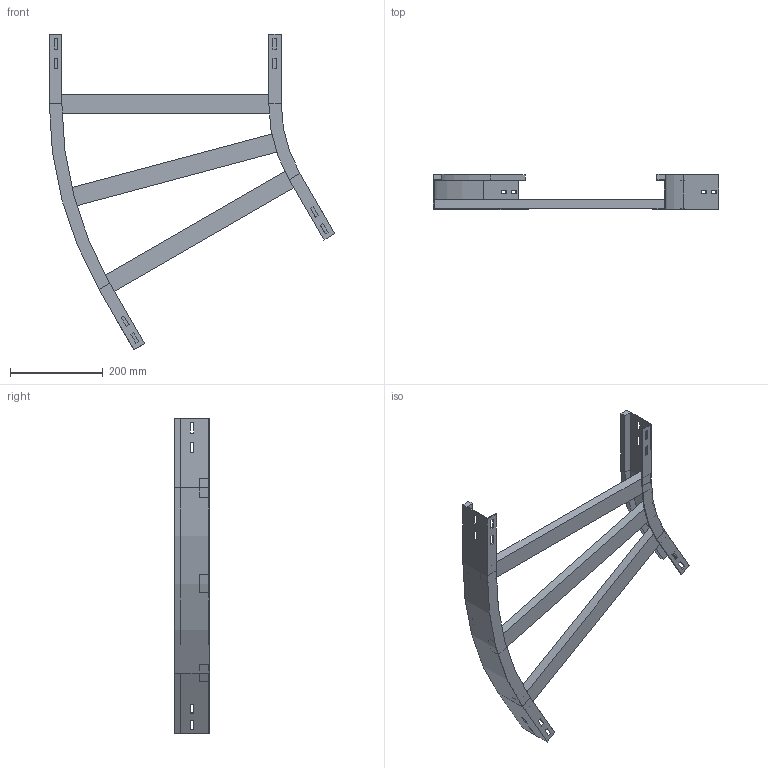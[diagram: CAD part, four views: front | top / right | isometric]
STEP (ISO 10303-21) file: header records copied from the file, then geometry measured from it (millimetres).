
FILE_DESCRIPTION (( 'STEP AP214' ), '1' );
FILE_NAME ('A2_12B3C500.step', '2025-02-21T15:10:44', ( '' ), ( '' ), 'SwSTEP 2.0', 'SolidWorks 2023', '' );
FILE_SCHEMA (( 'AUTOMOTIVE_DESIGN' ));
Length unit declared in the file: millimetre
Products named in the file (4): A2_12B3C500; A2_LONGH.INTERNO 30°_H75_R300; TRAVERSINO_500; A2_LONGH.ESTERNO 30°_H75_R300+500
Assembly tree (5 placements, depth 2):
  A2_12B3C500
    A2_LONGH.INTERNO 30°_H75_R300
    A2_LONGH.ESTERNO 30°_H75_R300+500
    TRAVERSINO_500  x3
Bounding box: 615.19 x 75 x 679.9 mm (x, y, z)
Volume: 1661327.8 mm3; surface area: 460930.2 mm2
Topology: 5 solids, 5 shells, 134 faces, 340 edges, 216 vertices
Faces by surface type: plane 126, cylinder 8
Entity records: 3821 total; most frequent: CARTESIAN_POINT 646, ORIENTED_EDGE 632, DIRECTION 592, EDGE_CURVE 316, LINE 300, VECTOR 300, VERTEX_POINT 200, EDGE_LOOP 154
